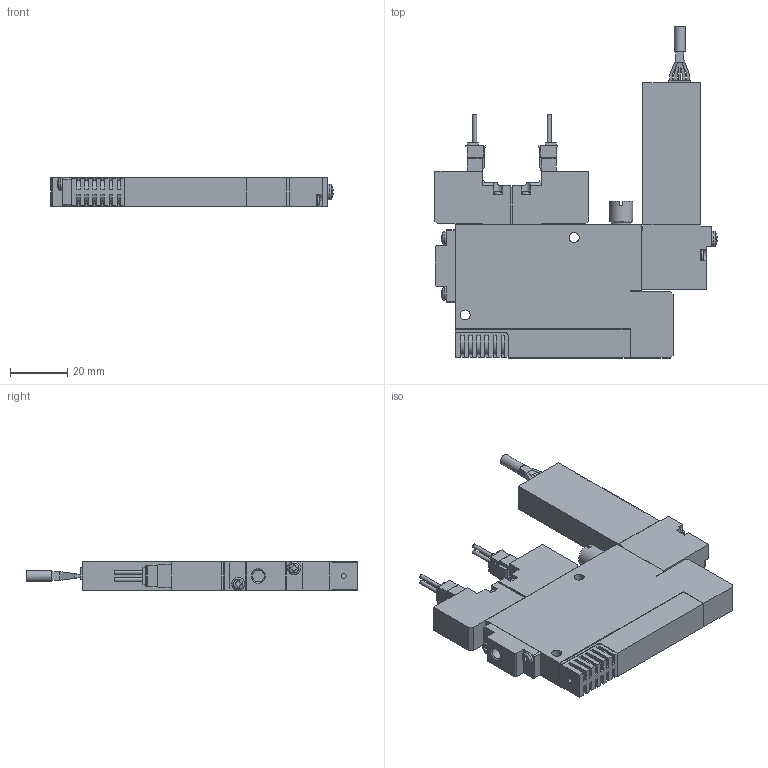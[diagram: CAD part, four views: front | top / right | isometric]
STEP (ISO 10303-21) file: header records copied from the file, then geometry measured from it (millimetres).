
FILE_DESCRIPTION(('STEP AP203'),'1');
FILE_NAME('5SS_3D.stp','2024-09-04T23:21:35',(' '),(' '),'Spatial InterOp 3D',' ',' ');
FILE_SCHEMA(('CONFIG_CONTROL_DESIGN'));
Length unit declared in the file: millimetre
Products named in the file (5): BSC1S※※V9※5SS; Solenoid valve S; Pressure Sensor V9; Unit-S; BaseSS10R
Assembly tree (4 placements, depth 2):
  BSC1S※※V9※5SS
    Solenoid valve S
    Pressure Sensor V9
    Unit-S
    BaseSS10R
Bounding box: 98.4 x 115.8 x 10 mm (x, y, z)
Volume: 55713.9 mm3; surface area: 22125.3 mm2
Topology: 4 solids, 4 shells, 520 faces, 1431 edges, 945 vertices
Faces by surface type: plane 396, cylinder 110, sphere 5, torus 5, cone 4
Full cylindrical faces by diameter (mm): 1.4 x4, 1.8 x1, 3 x4, 3.5 x8, 3.8 x1, 4.134 x3, 4.5 x2, 5.5 x2, 7 x1, 7.7 x1, 8 x1
Entity records: 16720 total; most frequent: CARTESIAN_POINT 3331, ORIENTED_EDGE 2746, DIRECTION 2624, EDGE_CURVE 1373, LINE 1084, VECTOR 1084, VERTEX_POINT 929, AXIS2_PLACEMENT_3D 770
